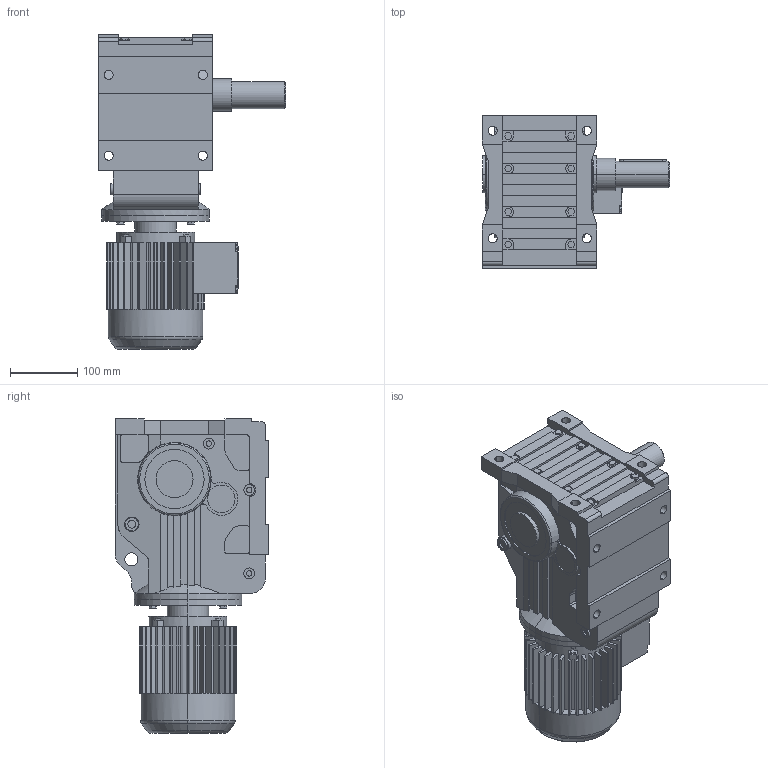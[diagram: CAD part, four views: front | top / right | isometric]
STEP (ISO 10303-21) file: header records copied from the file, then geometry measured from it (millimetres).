
FILE_DESCRIPTION(('Open CASCADE Model'),'2;1');
FILE_NAME('Open CASCADE Shape Model','2021-06-09T15:29:31',('Author'),( 'Open CASCADE'),'Open CASCADE STEP processor 6.3','Open CASCADE 6.3' ,'Unknown');
FILE_SCHEMA(('AUTOMOTIVE_DESIGN_CC2 { 1 2 10303 214 -1 1 5 4 }'));
Length unit declared in the file: millimetre
Products named in the file (4): 1_K67DT71D-A; K37‵157_67.step; 萇儂_160-DT71D-199-263-145-122.step; す瑩妗陑粣K_67.step
Assembly tree (3 placements, depth 2):
  1_K67DT71D-A
    K37‵157_67.step
    萇儂_160-DT71D-199-263-145-122.step
    す瑩妗陑粣K_67.step
Bounding box: 278 x 228 x 468 mm (x, y, z)
Volume: 10382603.1 mm3; surface area: 634950.9 mm2
Topology: 3 solids, 3 shells, 839 faces, 2210 edges, 1434 vertices
Faces by surface type: plane 584, cylinder 231, cone 16, torus 8
Entity records: 57692 total; most frequent: CARTESIAN_POINT 15683, DIRECTION 7244, ORIENTED_EDGE 4416, PCURVE 4416, DEFINITIONAL_REPRESENTATION 4416, LINE 3943, VECTOR 3943, EDGE_CURVE 2208
